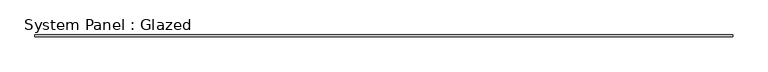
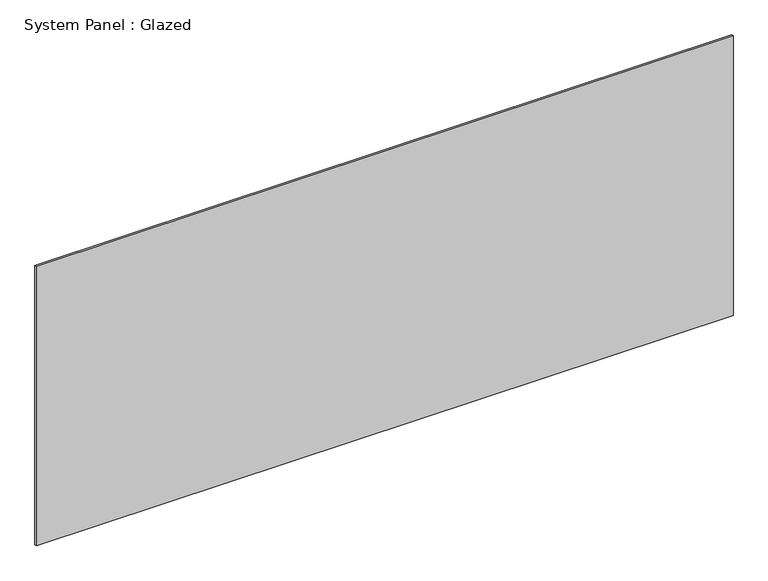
"""IFC4 building model written with IfcOpenShell, lengths in millimetres: plate geometry, System Panel : Glazed."""

from ifc_helpers import new_model, si_unit, origin, origin_with_axes, place, context, project, spatial, polyline, outline, extrude, source, transform, mapped, element, save


def system_panel_glazed_8ba56651(model_context):
    return source(origin(), model_context, "Body", "SweptSolid", [
        extrude(outline(polyline([(4673.6, 19.05), (-4673.6, 19.05), (-4673.6, 44.45), (4673.6, 44.45), (4673.6, 19.05)])), origin_with_axes(), (0.0, 0.0, 1.0), 3962.4),
    ])


if __name__ == "__main__":
    model = new_model("IFC4")
    model_context = context("Model", 3, world=origin())
    ifc_project = project(units=[si_unit("LENGTHUNIT", "METRE", prefix="MILLI")], contexts=[model_context])
    site = spatial("IfcSite", under=ifc_project)
    building = spatial("IfcBuilding", under=site)
    placement = place(None, origin())
    system_panel_glazed_shape = system_panel_glazed_8ba56651(model_context)
    element("IfcPlate", 1, ObjectType="System Panel : Glazed", at=placement, inside=building, context=model_context, shape_type="MappedRepresentation", body=[
        mapped(system_panel_glazed_shape, transform((0.0, 0.0, 0.0), x_axis=(1.0, 0.0, 0.0), y_axis=(0.0, 1.0, 0.0), z_axis=(0.0, 0.0, 1.0))),
    ])
    save(model, "model.ifc")
